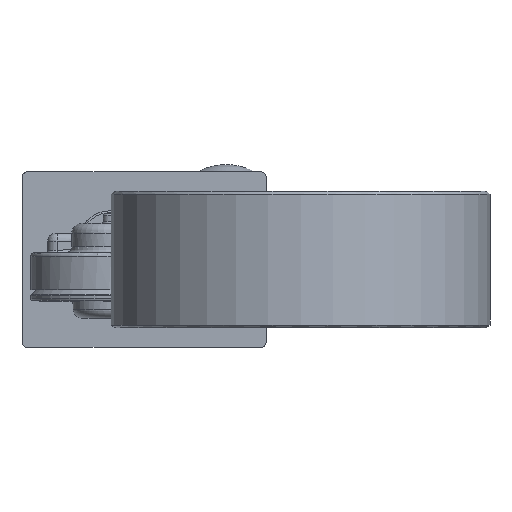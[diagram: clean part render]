
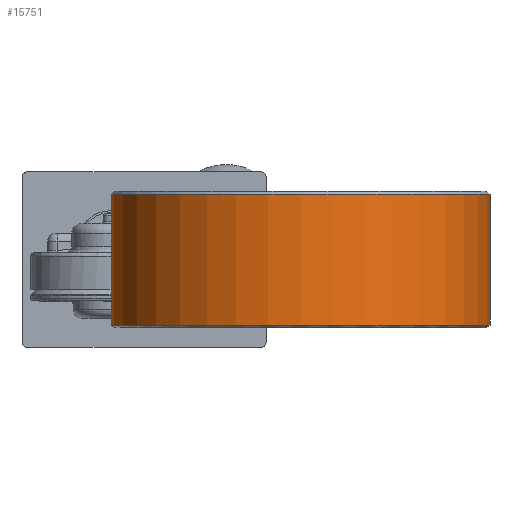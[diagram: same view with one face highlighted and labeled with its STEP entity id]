
A CAD part, left-side view. The second image highlights one B-rep face of the part: STEP entity #15751.
In plain terms, the highlighted cylindrical face has radius 97 mm (diameter 194 mm), a partial arc.
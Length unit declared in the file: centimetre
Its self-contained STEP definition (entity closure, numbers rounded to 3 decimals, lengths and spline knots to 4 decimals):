
#2906=VECTOR('',#20079,1.);
#2908=VECTOR('',#20081,1.);
#3909=LINE('',#34138,#2906);
#3911=LINE('',#34150,#2908);
#6151=VERTEX_POINT('',#34125);
#6152=VERTEX_POINT('',#34127);
#6156=VERTEX_POINT('',#34139);
#6159=VERTEX_POINT('',#34149);
#6705=CIRCLE('',#16980,9.7);
#6709=CIRCLE('',#16986,9.7);
#8652=EDGE_CURVE('',#6151,#6152,#6705,.T.);
#8657=EDGE_CURVE('',#6152,#6156,#3909,.T.);
#8661=EDGE_CURVE('',#6151,#6159,#3911,.T.);
#8663=EDGE_CURVE('',#6156,#6159,#6709,.T.);
#12558=ORIENTED_EDGE('',*,*,#8652,.F.);
#12559=ORIENTED_EDGE('',*,*,#8661,.T.);
#12560=ORIENTED_EDGE('',*,*,#8663,.F.);
#12561=ORIENTED_EDGE('',*,*,#8657,.F.);
#13728=EDGE_LOOP('',(#12558,#12559,#12560,#12561));
#14872=FACE_BOUND('',#13728,.T.);
#15751=ADVANCED_FACE('',(#14872),#34456,.T.);
#16980=AXIS2_PLACEMENT_3D('',#34126,#20070,#20071);
#16985=AXIS2_PLACEMENT_3D('',#34152,#20083,#20084);
#16986=AXIS2_PLACEMENT_3D('',#34153,#20085,#20086);
#20070=DIRECTION('',(0.,0.,1.));
#20071=DIRECTION('',(-9.7,0.,0.));
#20079=DIRECTION('',(0.,0.,-1.));
#20081=DIRECTION('',(0.,0.,-1.));
#20083=DIRECTION('',(0.,0.,-1.));
#20084=DIRECTION('',(-9.7,0.,0.));
#20085=DIRECTION('',(0.,0.,-1.));
#20086=DIRECTION('',(-9.7,0.,0.));
#34125=CARTESIAN_POINT('',(-5.519,-4.8097,5.5968));
#34126=CARTESIAN_POINT('',(-15.019,-6.7693,5.5968));
#34127=CARTESIAN_POINT('',(-5.519,-8.7289,5.5968));
#34138=CARTESIAN_POINT('',(-5.519,-8.7289,5.7468));
#34139=CARTESIAN_POINT('',(-5.519,-8.7289,-1.1032));
#34149=CARTESIAN_POINT('',(-5.519,-4.8097,-1.1032));
#34150=CARTESIAN_POINT('',(-5.519,-4.8097,5.7468));
#34152=CARTESIAN_POINT('',(-15.019,-6.7693,5.7468));
#34153=CARTESIAN_POINT('',(-15.019,-6.7693,-1.1032));
#34456=CYLINDRICAL_SURFACE('',#16985,9.7);
